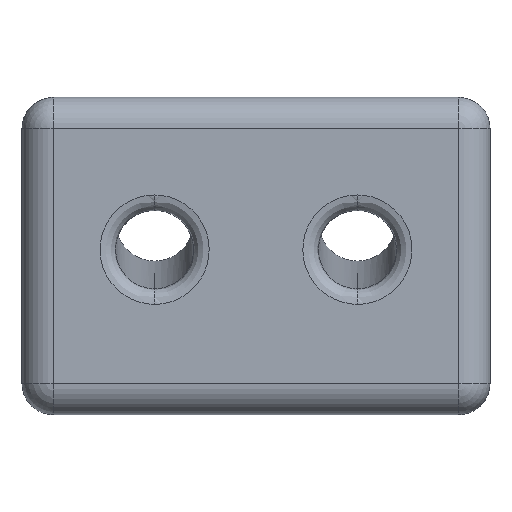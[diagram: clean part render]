
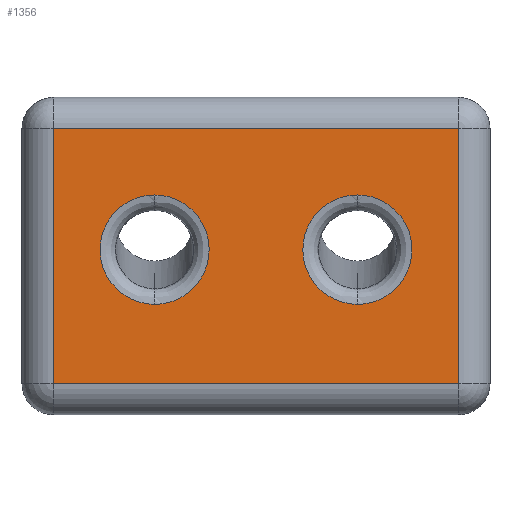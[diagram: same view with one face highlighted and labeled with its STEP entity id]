
A CAD part, left-side view. The second image highlights one B-rep face of the part: STEP entity #1356.
In plain terms, the highlighted planar face has unit normal (-1, 0, 0).
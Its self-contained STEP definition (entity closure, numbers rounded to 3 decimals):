
#7 = FACE_BOUND ( 'NONE', #594, .T. ) ;
#30 = EDGE_LOOP ( 'NONE', ( #1203, #311, #1141, #661 ) ) ;
#44 = CARTESIAN_POINT ( 'NONE',  ( 0., 14., -9.341 ) ) ;
#46 = EDGE_CURVE ( 'NONE', #277, #1506, #463, .T. ) ;
#69 = DIRECTION ( 'NONE',  ( 0., -1., 0. ) ) ;
#100 = CARTESIAN_POINT ( 'NONE',  ( 0., 7.25, -3.298 ) ) ;
#105 = CARTESIAN_POINT ( 'NONE',  ( 0., 10.75, -6.802 ) ) ;
#125 = PLANE ( 'NONE',  #564 ) ;
#146 = ORIENTED_EDGE ( 'NONE', *, *, #284, .T. ) ;
#180 = DIRECTION ( 'NONE',  ( 0., 0., -1. ) ) ;
#197 = CARTESIAN_POINT ( 'NONE',  ( 0., 4.25, -3.298 ) ) ;
#245 = EDGE_LOOP ( 'NONE', ( #684, #146 ) ) ;
#268 = ORIENTED_EDGE ( 'NONE', *, *, #1135, .T. ) ;
#277 = VERTEX_POINT ( 'NONE', #44 ) ;
#284 = EDGE_CURVE ( 'NONE', #1241, #569, #938, .T. ) ;
#300 = CARTESIAN_POINT ( 'NONE',  ( 0., 10.75, -6.802 ) ) ;
#308 = LINE ( 'NONE', #880, #927 ) ;
#311 = ORIENTED_EDGE ( 'NONE', *, *, #1368, .T. ) ;
#350 = EDGE_CURVE ( 'NONE', #411, #995, #308, .T. ) ;
#353 = CARTESIAN_POINT ( 'NONE',  ( 0., 0.75, -3.298 ) ) ;
#373 = CARTESIAN_POINT ( 'NONE',  ( 0., 4.25, -6.802 ) ) ;
#411 = VERTEX_POINT ( 'NONE', #476 ) ;
#445 = VECTOR ( 'NONE', #69, 1000. ) ;
#463 = LINE ( 'NONE', #1169, #445 ) ;
#466 = CARTESIAN_POINT ( 'NONE',  ( 0., 0.75, -6.802 ) ) ;
#476 = CARTESIAN_POINT ( 'NONE',  ( 0., 1., -1.166 ) ) ;
#563 = CARTESIAN_POINT ( 'NONE',  ( 0., 4.25, -3.298 ) ) ;
#564 = AXIS2_PLACEMENT_3D ( 'NONE', #1207, #968, #1105 ) ;
#569 = VERTEX_POINT ( 'NONE', #990 ) ;
#594 = EDGE_LOOP ( 'NONE', ( #1364, #268 ) ) ;
#618 = CARTESIAN_POINT ( 'NONE',  ( 0., 14., -1.166 ) ) ;
#648 = CARTESIAN_POINT ( 'NONE',  ( 0., 1., -9.341 ) ) ;
#652 =( BOUNDED_CURVE ( )  B_SPLINE_CURVE ( 3, ( #1451, #353, #466, #847 ),
 .UNSPECIFIED., .F., .F. ) 
 B_SPLINE_CURVE_WITH_KNOTS ( ( 4, 4 ),
 ( 0., 3.142 ),
 .UNSPECIFIED. ) 
 CURVE ( )  GEOMETRIC_REPRESENTATION_ITEM ( )  RATIONAL_B_SPLINE_CURVE ( ( 1., 0.333, 0.333, 1. ) ) 
 REPRESENTATION_ITEM ( '' )  );
#661 = ORIENTED_EDGE ( 'NONE', *, *, #1093, .T. ) ;
#663 = VECTOR ( 'NONE', #1225, 1000. ) ;
#684 = ORIENTED_EDGE ( 'NONE', *, *, #826, .T. ) ;
#709 =( BOUNDED_CURVE ( )  B_SPLINE_CURVE ( 3, ( #1200, #100, #1091, #105 ),
 .UNSPECIFIED., .F., .T. ) 
 B_SPLINE_CURVE_WITH_KNOTS ( ( 4, 4 ),
 ( 0., 3.142 ),
 .UNSPECIFIED. ) 
 CURVE ( )  GEOMETRIC_REPRESENTATION_ITEM ( )  RATIONAL_B_SPLINE_CURVE ( ( 1., 0.333, 0.333, 1. ) ) 
 REPRESENTATION_ITEM ( '' )  );
#728 = LINE ( 'NONE', #1094, #663 ) ;
#777 = CARTESIAN_POINT ( 'NONE',  ( 0., 7.75, -6.802 ) ) ;
#822 = VECTOR ( 'NONE', #180, 1000. ) ;
#826 = EDGE_CURVE ( 'NONE', #569, #1241, #709, .T. ) ;
#847 = CARTESIAN_POINT ( 'NONE',  ( 0., 4.25, -6.802 ) ) ;
#880 = CARTESIAN_POINT ( 'NONE',  ( 0., 15., -1.166 ) ) ;
#891 = CARTESIAN_POINT ( 'NONE',  ( 0., 14.25, -3.298 ) ) ;
#923 = VERTEX_POINT ( 'NONE', #373 ) ;
#927 = VECTOR ( 'NONE', #1111, 1000. ) ;
#938 =( BOUNDED_CURVE ( )  B_SPLINE_CURVE ( 3, ( #300, #1045, #891, #1380 ),
 .UNSPECIFIED., .F., .T. ) 
 B_SPLINE_CURVE_WITH_KNOTS ( ( 4, 4 ),
 ( 3.142, 6.283 ),
 .UNSPECIFIED. ) 
 CURVE ( )  GEOMETRIC_REPRESENTATION_ITEM ( )  RATIONAL_B_SPLINE_CURVE ( ( 1., 0.333, 0.333, 1. ) ) 
 REPRESENTATION_ITEM ( '' )  );
#961 = FACE_OUTER_BOUND ( 'NONE', #30, .T. ) ;
#968 = DIRECTION ( 'NONE',  ( 1., 0., 0. ) ) ;
#990 = CARTESIAN_POINT ( 'NONE',  ( 0., 10.75, -3.298 ) ) ;
#995 = VERTEX_POINT ( 'NONE', #618 ) ;
#1025 = LINE ( 'NONE', #1174, #822 ) ;
#1045 = CARTESIAN_POINT ( 'NONE',  ( 0., 14.25, -6.802 ) ) ;
#1052 = CARTESIAN_POINT ( 'NONE',  ( 0., 4.25, -6.802 ) ) ;
#1089 = CARTESIAN_POINT ( 'NONE',  ( 0., 10.75, -6.802 ) ) ;
#1091 = CARTESIAN_POINT ( 'NONE',  ( 0., 7.25, -6.802 ) ) ;
#1093 = EDGE_CURVE ( 'NONE', #995, #277, #1025, .T. ) ;
#1094 = CARTESIAN_POINT ( 'NONE',  ( 0., 1., -1.166 ) ) ;
#1099 = FACE_BOUND ( 'NONE', #245, .T. ) ;
#1105 = DIRECTION ( 'NONE',  ( 0., 0., -1. ) ) ;
#1111 = DIRECTION ( 'NONE',  ( 0., 1., 0. ) ) ;
#1135 = EDGE_CURVE ( 'NONE', #923, #1153, #1264, .T. ) ;
#1141 = ORIENTED_EDGE ( 'NONE', *, *, #350, .T. ) ;
#1153 = VERTEX_POINT ( 'NONE', #563 ) ;
#1169 = CARTESIAN_POINT ( 'NONE',  ( 0., 15., -9.341 ) ) ;
#1174 = CARTESIAN_POINT ( 'NONE',  ( 0., 14., 0. ) ) ;
#1200 = CARTESIAN_POINT ( 'NONE',  ( 0., 10.75, -3.298 ) ) ;
#1203 = ORIENTED_EDGE ( 'NONE', *, *, #46, .T. ) ;
#1207 = CARTESIAN_POINT ( 'NONE',  ( 0., 15., 0. ) ) ;
#1225 = DIRECTION ( 'NONE',  ( 0., 0., 1. ) ) ;
#1241 = VERTEX_POINT ( 'NONE', #1089 ) ;
#1264 =( BOUNDED_CURVE ( )  B_SPLINE_CURVE ( 3, ( #1052, #777, #1394, #197 ),
 .UNSPECIFIED., .F., .F. ) 
 B_SPLINE_CURVE_WITH_KNOTS ( ( 4, 4 ),
 ( 3.142, 6.283 ),
 .UNSPECIFIED. ) 
 CURVE ( )  GEOMETRIC_REPRESENTATION_ITEM ( )  RATIONAL_B_SPLINE_CURVE ( ( 1., 0.333, 0.333, 1. ) ) 
 REPRESENTATION_ITEM ( '' )  );
#1356 = ADVANCED_FACE ( 'NONE', ( #1099, #7, #961 ), #125, .F. ) ;
#1364 = ORIENTED_EDGE ( 'NONE', *, *, #1447, .T. ) ;
#1368 = EDGE_CURVE ( 'NONE', #1506, #411, #728, .T. ) ;
#1380 = CARTESIAN_POINT ( 'NONE',  ( 0., 10.75, -3.298 ) ) ;
#1394 = CARTESIAN_POINT ( 'NONE',  ( 0., 7.75, -3.298 ) ) ;
#1447 = EDGE_CURVE ( 'NONE', #1153, #923, #652, .T. ) ;
#1451 = CARTESIAN_POINT ( 'NONE',  ( 0., 4.25, -3.298 ) ) ;
#1506 = VERTEX_POINT ( 'NONE', #648 ) ;
